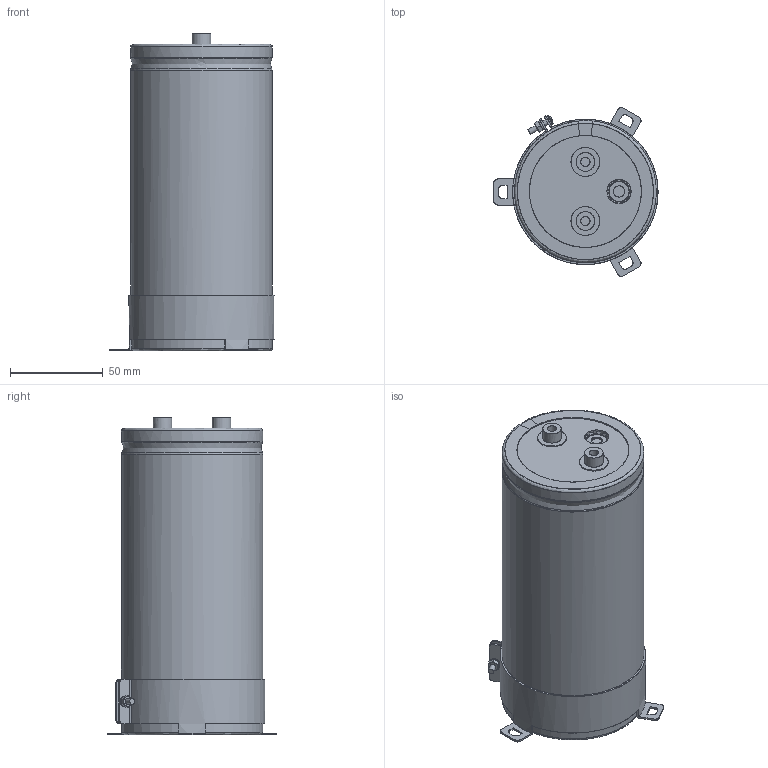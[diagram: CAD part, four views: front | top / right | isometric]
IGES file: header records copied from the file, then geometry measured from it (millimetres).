
Start section: JAMA-IS VERSION  1.0
Bounding box: 88.3 x 90.75 x 171 mm (x, y, z)
Surface area: 148584.3 mm2 (no closed solid volume)
Topology: 0 solids, 0 shells, 259 faces, 4448 edges, 4417 vertices
Faces by surface type: bspline 259
